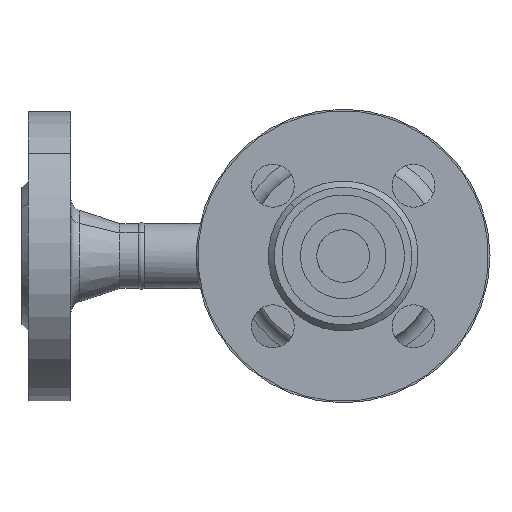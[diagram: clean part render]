
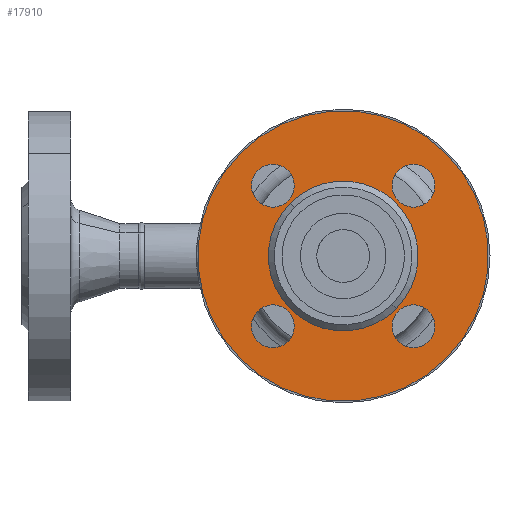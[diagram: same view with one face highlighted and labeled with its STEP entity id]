
A CAD part, front view. The second image highlights one B-rep face of the part: STEP entity #17910.
In plain terms, the highlighted planar face has unit normal (0, -1, 0).
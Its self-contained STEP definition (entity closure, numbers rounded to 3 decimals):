
#42 = EDGE_LOOP ( 'NONE', ( #24294, #3638 ) ) ;
#16558 = EDGE_CURVE ( 'NONE', #19768, #2915, #9769, .T. ) ;
#240 = EDGE_CURVE ( 'NONE', #14894, #15134, #5564, .T. ) ;
#241 = ORIENTED_EDGE ( 'NONE', *, *, #15554, .T. ) ;
#16659 = VERTEX_POINT ( 'NONE', #9796 ) ;
#16871 = VERTEX_POINT ( 'NONE', #10082 ) ;
#17010 = ORIENTED_EDGE ( 'NONE', *, *, #16558, .T. ) ;
#17080 = VERTEX_POINT ( 'NONE', #10537 ) ;
#17409 = EDGE_CURVE ( 'NONE', #17080, #16659, #11339, .T. ) ;
#17457 = CARTESIAN_POINT ( 'NONE',  ( -7., 2., -32.5 ) ) ;
#17669 = EDGE_LOOP ( 'NONE', ( #17010, #15655 ) ) ;
#17910 = ADVANCED_FACE ( 'NONE', ( #12543, #12544, #12545, #12546, #12547, #12548 ), #12549, .F. ) ;
#1952 = ORIENTED_EDGE ( 'NONE', *, *, #17409, .T. ) ;
#2473 = EDGE_CURVE ( 'NONE', #16659, #17080, #11855, .T. ) ;
#2838 = ORIENTED_EDGE ( 'NONE', *, *, #2473, .T. ) ;
#2915 = VERTEX_POINT ( 'NONE', #12883 ) ;
#19325 = EDGE_CURVE ( 'NONE', #11008, #11433, #15911, .T. ) ;
#3042 = EDGE_CURVE ( 'NONE', #2915, #19768, #13203, .T. ) ;
#19539 = ORIENTED_EDGE ( 'NONE', *, *, #240, .T. ) ;
#3359 = EDGE_LOOP ( 'NONE', ( #2838, #1952 ) ) ;
#19768 = VERTEX_POINT ( 'NONE', #17457 ) ;
#3602 = ORIENTED_EDGE ( 'NONE', *, *, #24205, .T. ) ;
#3638 = ORIENTED_EDGE ( 'NONE', *, *, #19325, .F. ) ;
#4117 = EDGE_CURVE ( 'NONE', #23763, #23981, #15605, .T. ) ;
#4383 = CARTESIAN_POINT ( 'NONE',  ( 47.5, 2., 0. ) ) ;
#5010 = EDGE_LOOP ( 'NONE', ( #19539, #241 ) ) ;
#5564 = CIRCLE ( 'NONE', #5565, 7. ) ;
#5565 = AXIS2_PLACEMENT_3D ( 'NONE', #5566, #5567, #5568 ) ;
#5566 = CARTESIAN_POINT ( 'NONE',  ( 32.5, 2., 0. ) ) ;
#5567 = DIRECTION ( 'NONE',  ( 0., 1., 0. ) ) ;
#5568 = DIRECTION ( 'NONE',  ( -1., 0., 0. ) ) ;
#22608 = ORIENTED_EDGE ( 'NONE', *, *, #7519, .T. ) ;
#22958 = ORIENTED_EDGE ( 'NONE', *, *, #15200, .T. ) ;
#6937 = CARTESIAN_POINT ( 'NONE',  ( -24.5, 2., 0. ) ) ;
#6985 = CARTESIAN_POINT ( 'NONE',  ( 25.5, 2., 0. ) ) ;
#23482 = EDGE_LOOP ( 'NONE', ( #22958, #22608 ) ) ;
#7261 = CARTESIAN_POINT ( 'NONE',  ( 39.5, 2., 0. ) ) ;
#7290 = CIRCLE ( 'NONE', #7291, 24.5 ) ;
#7291 = AXIS2_PLACEMENT_3D ( 'NONE', #7292, #7293, #7294 ) ;
#7292 = CARTESIAN_POINT ( 'NONE',  ( 0., 2., 0. ) ) ;
#7293 = DIRECTION ( 'NONE',  ( 0., 1., 0. ) ) ;
#7294 = DIRECTION ( 'NONE',  ( -1., 0., 0. ) ) ;
#23763 = VERTEX_POINT ( 'NONE', #14185 ) ;
#7519 = EDGE_CURVE ( 'NONE', #16871, #14792, #24426, .T. ) ;
#23981 = VERTEX_POINT ( 'NONE', #14497 ) ;
#24205 = EDGE_CURVE ( 'NONE', #23981, #23763, #14882, .T. ) ;
#24294 = ORIENTED_EDGE ( 'NONE', *, *, #11846, .F. ) ;
#7937 = CIRCLE ( 'NONE', #7938, 7. ) ;
#7938 = AXIS2_PLACEMENT_3D ( 'NONE', #7939, #7940, #7941 ) ;
#7939 = CARTESIAN_POINT ( 'NONE',  ( 32.5, 2., 0. ) ) ;
#7940 = DIRECTION ( 'NONE',  ( 0., 1., 0. ) ) ;
#7941 = DIRECTION ( 'NONE',  ( -1., 0., 0. ) ) ;
#24426 = CIRCLE ( 'NONE', #24427, 24.5 ) ;
#24427 = AXIS2_PLACEMENT_3D ( 'NONE', #24428, #24429, #24430 ) ;
#24428 = CARTESIAN_POINT ( 'NONE',  ( 0., 2., 0. ) ) ;
#24429 = DIRECTION ( 'NONE',  ( 0., 1., 0. ) ) ;
#24430 = DIRECTION ( 'NONE',  ( -1., 0., 0. ) ) ;
#9769 = CIRCLE ( 'NONE', #9770, 7. ) ;
#9770 = AXIS2_PLACEMENT_3D ( 'NONE', #9771, #9772, #9773 ) ;
#9771 = CARTESIAN_POINT ( 'NONE',  ( 0., 2., -32.5 ) ) ;
#9772 = DIRECTION ( 'NONE',  ( 0., 1., 0. ) ) ;
#9773 = DIRECTION ( 'NONE',  ( -1., 0., 0. ) ) ;
#9796 = CARTESIAN_POINT ( 'NONE',  ( -7., 2., 32.5 ) ) ;
#10082 = CARTESIAN_POINT ( 'NONE',  ( 24.5, 2., 0. ) ) ;
#10537 = CARTESIAN_POINT ( 'NONE',  ( 7., 2., 32.5 ) ) ;
#11008 = VERTEX_POINT ( 'NONE', #4383 ) ;
#11339 = CIRCLE ( 'NONE', #11340, 7. ) ;
#11340 = AXIS2_PLACEMENT_3D ( 'NONE', #11341, #11342, #11343 ) ;
#11341 = CARTESIAN_POINT ( 'NONE',  ( 0., 2., 32.5 ) ) ;
#11342 = DIRECTION ( 'NONE',  ( 0., 1., 0. ) ) ;
#11343 = DIRECTION ( 'NONE',  ( -1., 0., 0. ) ) ;
#11433 = VERTEX_POINT ( 'NONE', #14045 ) ;
#11846 = EDGE_CURVE ( 'NONE', #11433, #11008, #14401, .T. ) ;
#11855 = CIRCLE ( 'NONE', #11856, 7. ) ;
#11856 = AXIS2_PLACEMENT_3D ( 'NONE', #11857, #11858, #11859 ) ;
#11857 = CARTESIAN_POINT ( 'NONE',  ( 0., 2., 32.5 ) ) ;
#11858 = DIRECTION ( 'NONE',  ( 0., 1., 0. ) ) ;
#11859 = DIRECTION ( 'NONE',  ( -1., 0., 0. ) ) ;
#12543 = FACE_BOUND ( 'NONE', #17669, .T. ) ;
#12544 = FACE_BOUND ( 'NONE', #15201, .T. ) ;
#12545 = FACE_BOUND ( 'NONE', #3359, .T. ) ;
#12546 = FACE_BOUND ( 'NONE', #5010, .T. ) ;
#12547 = FACE_OUTER_BOUND ( 'NONE', #42, .T. ) ;
#12548 = FACE_BOUND ( 'NONE', #23482, .T. ) ;
#12549 = PLANE ( 'NONE',  #12550 ) ;
#12550 = AXIS2_PLACEMENT_3D ( 'NONE', #12551, #12552, #12553 ) ;
#12551 = CARTESIAN_POINT ( 'NONE',  ( 24.5, 2., 0. ) ) ;
#12552 = DIRECTION ( 'NONE',  ( 0., 1., 0. ) ) ;
#12553 = DIRECTION ( 'NONE',  ( -1., 0., 0. ) ) ;
#12883 = CARTESIAN_POINT ( 'NONE',  ( 7., 2., -32.5 ) ) ;
#13203 = CIRCLE ( 'NONE', #13204, 7. ) ;
#13204 = AXIS2_PLACEMENT_3D ( 'NONE', #13205, #13206, #13207 ) ;
#13205 = CARTESIAN_POINT ( 'NONE',  ( 0., 2., -32.5 ) ) ;
#13206 = DIRECTION ( 'NONE',  ( 0., 1., 0. ) ) ;
#13207 = DIRECTION ( 'NONE',  ( -1., 0., 0. ) ) ;
#14045 = CARTESIAN_POINT ( 'NONE',  ( -47.5, 2., 0. ) ) ;
#14185 = CARTESIAN_POINT ( 'NONE',  ( -39.5, 2., 0. ) ) ;
#14234 = ORIENTED_EDGE ( 'NONE', *, *, #4117, .T. ) ;
#14401 = CIRCLE ( 'NONE', #14402, 47.5 ) ;
#14402 = AXIS2_PLACEMENT_3D ( 'NONE', #14403, #14404, #14423 ) ;
#14403 = CARTESIAN_POINT ( 'NONE',  ( 0., 2., 0. ) ) ;
#14404 = DIRECTION ( 'NONE',  ( 0., 1., 0. ) ) ;
#14423 = DIRECTION ( 'NONE',  ( -1., 0., 0. ) ) ;
#14497 = CARTESIAN_POINT ( 'NONE',  ( -25.5, 2., 0. ) ) ;
#14792 = VERTEX_POINT ( 'NONE', #6937 ) ;
#14882 = CIRCLE ( 'NONE', #14883, 7. ) ;
#14883 = AXIS2_PLACEMENT_3D ( 'NONE', #14884, #14885, #14886 ) ;
#14884 = CARTESIAN_POINT ( 'NONE',  ( -32.5, 2., 0. ) ) ;
#14885 = DIRECTION ( 'NONE',  ( 0., 1., 0. ) ) ;
#14886 = DIRECTION ( 'NONE',  ( -1., 0., 0. ) ) ;
#14894 = VERTEX_POINT ( 'NONE', #6985 ) ;
#15134 = VERTEX_POINT ( 'NONE', #7261 ) ;
#15200 = EDGE_CURVE ( 'NONE', #14792, #16871, #7290, .T. ) ;
#15201 = EDGE_LOOP ( 'NONE', ( #14234, #3602 ) ) ;
#15554 = EDGE_CURVE ( 'NONE', #15134, #14894, #7937, .T. ) ;
#15605 = CIRCLE ( 'NONE', #15623, 7. ) ;
#15623 = AXIS2_PLACEMENT_3D ( 'NONE', #15624, #15625, #15626 ) ;
#15624 = CARTESIAN_POINT ( 'NONE',  ( -32.5, 2., 0. ) ) ;
#15625 = DIRECTION ( 'NONE',  ( 0., 1., 0. ) ) ;
#15626 = DIRECTION ( 'NONE',  ( -1., 0., 0. ) ) ;
#15655 = ORIENTED_EDGE ( 'NONE', *, *, #3042, .T. ) ;
#15911 = CIRCLE ( 'NONE', #15912, 47.5 ) ;
#15912 = AXIS2_PLACEMENT_3D ( 'NONE', #15913, #15914, #15915 ) ;
#15913 = CARTESIAN_POINT ( 'NONE',  ( 0., 2., 0. ) ) ;
#15914 = DIRECTION ( 'NONE',  ( 0., 1., 0. ) ) ;
#15915 = DIRECTION ( 'NONE',  ( -1., 0., 0. ) ) ;
